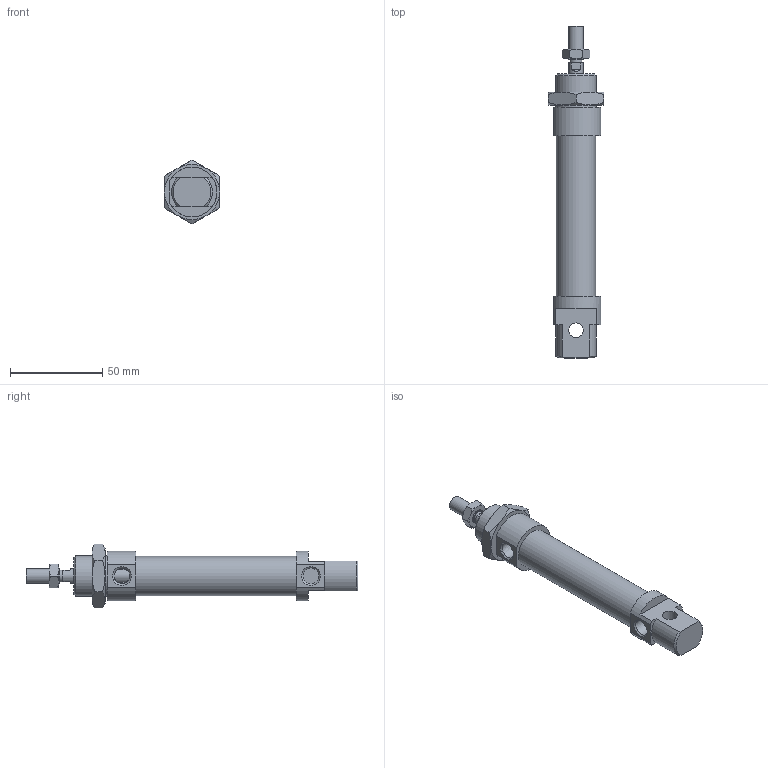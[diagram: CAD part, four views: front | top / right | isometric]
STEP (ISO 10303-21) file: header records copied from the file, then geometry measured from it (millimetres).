
FILE_DESCRIPTION((''),'2;1');
FILE_NAME('I:\Area Tecnica\Disegni\VARIE-3D\Componenti\1280\1280_##_####_#\1280_20_0050.iam.stp','2009-06-04T09:44:11',(''),(''),'Autodesk Inventor 2010','Autodesk Inventor 2010','');
FILE_SCHEMA(('AUTOMOTIVE_DESIGN { 1 0 10303 214 1 1 1 1 }'));
Length unit declared in the file: millimetre
Products named in the file (5): 1280_20_0050; C1280_20_50; S1280_20_50; 1200_20_05; 1200_20_06
Assembly tree (4 placements, depth 2):
  1280_20_0050
    C1280_20_50
    S1280_20_50
    1200_20_05
    1200_20_06
Bounding box: 30 x 180 x 34.64 mm (x, y, z)
Volume: 62006.4 mm3; surface area: 20374.8 mm2
Topology: 4 solids, 4 shells, 92 faces, 204 edges, 125 vertices
Faces by surface type: plane 41, cone 28, bspline 12, cylinder 11
Full cylindrical faces by diameter (mm): 6.5 x1, 8 x4, 21.2 x1, 22 x1
Entity records: 2742 total; most frequent: CARTESIAN_POINT 697, DIRECTION 376, ORIENTED_EDGE 356, EDGE_CURVE 178, AXIS2_PLACEMENT_3D 163, EDGE_LOOP 124, VERTEX_POINT 118, STYLED_ITEM 96
